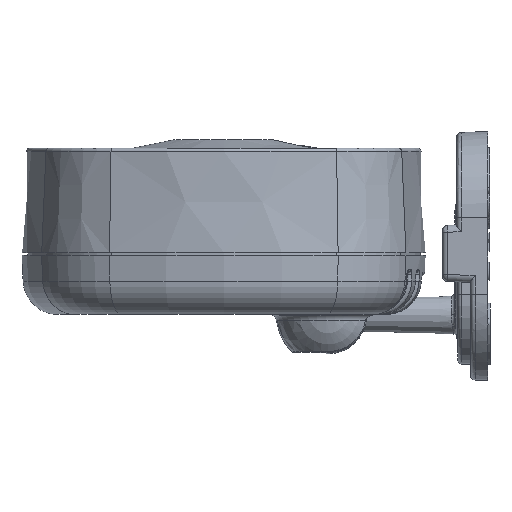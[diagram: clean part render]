
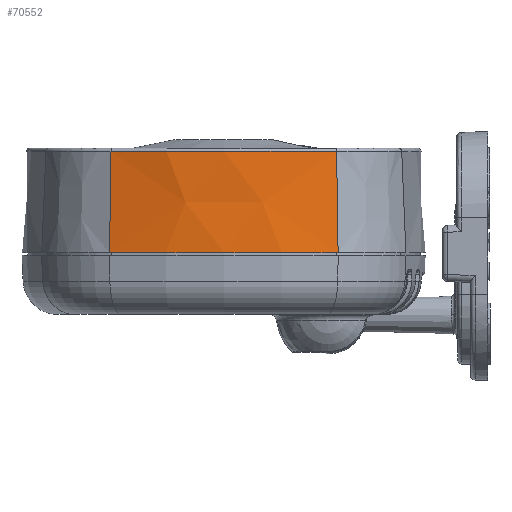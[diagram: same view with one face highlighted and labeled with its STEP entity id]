
A CAD part, left-side view. The second image highlights one B-rep face of the part: STEP entity #70552.
In plain terms, the highlighted conical face has half-angle 2.5 degrees and reference radius 49.3 mm.
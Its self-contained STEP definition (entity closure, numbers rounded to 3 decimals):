
#3758=LINE('',#112033,#7803);
#3760=LINE('',#112039,#7805);
#7803=VECTOR('',#81897,10.);
#7805=VECTOR('',#81903,10.);
#11965=CIRCLE('',#75117,49.278);
#11992=CIRCLE('',#75161,48.644);
#14099=CONICAL_SURFACE('',#75160,49.3,0.044);
#14703=FACE_OUTER_BOUND('',#18856,.T.);
#18856=EDGE_LOOP('',(#49001,#49002,#49003,#49004));
#28861=VERTEX_POINT('',#111360);
#28862=VERTEX_POINT('',#111362);
#28914=VERTEX_POINT('',#112032);
#28916=VERTEX_POINT('',#112038);
#36688=EDGE_CURVE('',#28862,#28861,#11965,.T.);
#36760=EDGE_CURVE('',#28862,#28914,#3758,.T.);
#36763=EDGE_CURVE('',#28861,#28916,#3760,.T.);
#36764=EDGE_CURVE('',#28914,#28916,#11992,.T.);
#49001=ORIENTED_EDGE('',*,*,#36688,.T.);
#49002=ORIENTED_EDGE('',*,*,#36763,.T.);
#49003=ORIENTED_EDGE('',*,*,#36764,.F.);
#49004=ORIENTED_EDGE('',*,*,#36760,.F.);
#70552=ADVANCED_FACE('',(#14703),#14099,.T.);
#75117=AXIS2_PLACEMENT_3D('',#111363,#81801,#81802);
#75160=AXIS2_PLACEMENT_3D('',#112037,#81901,#81902);
#75161=AXIS2_PLACEMENT_3D('',#112040,#81904,#81905);
#81801=DIRECTION('center_axis',(0.,0.,1.));
#81802=DIRECTION('ref_axis',(0.943,-0.333,0.));
#81897=DIRECTION('',(0.041,-0.015,0.999));
#81901=DIRECTION('center_axis',(0.,0.,-1.));
#81902=DIRECTION('ref_axis',(0.943,-0.333,0.));
#81903=DIRECTION('',(0.041,0.015,0.999));
#81904=DIRECTION('center_axis',(0.,0.,1.));
#81905=DIRECTION('ref_axis',(-1.,0.,0.));
#111360=CARTESIAN_POINT('',(-26.162,-16.421,0.5));
#111362=CARTESIAN_POINT('',(-26.162,16.421,0.5));
#111363=CARTESIAN_POINT('Origin',(20.3,0.,0.5));
#112032=CARTESIAN_POINT('',(-25.564,16.21,15.022));
#112033=CARTESIAN_POINT('',(-26.182,16.428,0.));
#112037=CARTESIAN_POINT('Origin',(20.3,0.,0.));
#112038=CARTESIAN_POINT('',(-25.564,-16.21,15.022));
#112039=CARTESIAN_POINT('',(-26.182,-16.428,0.));
#112040=CARTESIAN_POINT('Origin',(20.3,0.,15.022));
